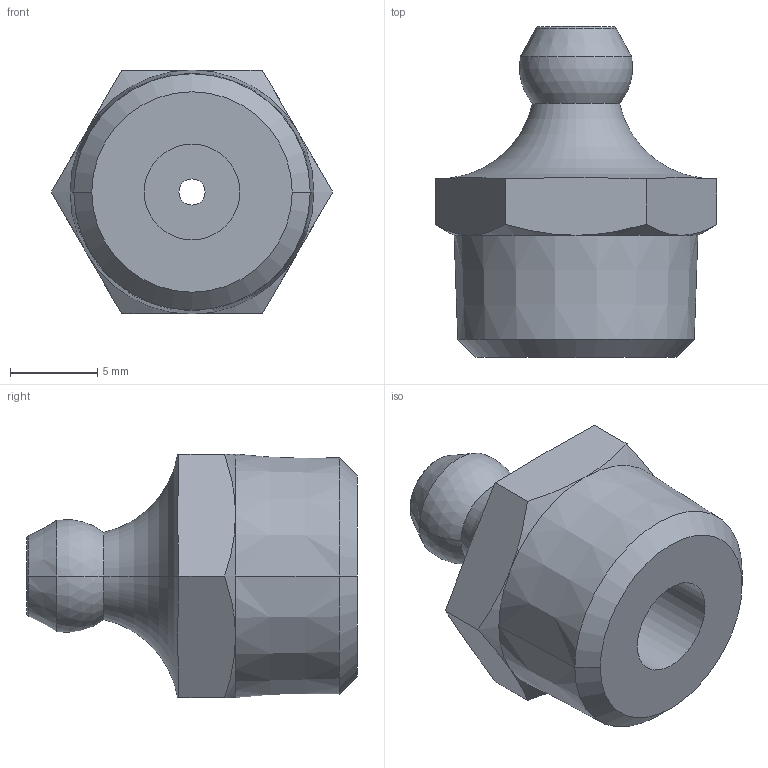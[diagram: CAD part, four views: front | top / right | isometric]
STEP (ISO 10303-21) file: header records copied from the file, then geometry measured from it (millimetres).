
FILE_DESCRIPTION((''),'2;1');
FILE_NAME('0022042','2016-09-22T',('lpini'),(''),'PRO/ENGINEER BY PARAMETRIC TECHNOLOGY CORPORATION, 2015030','PRO/ENGINEER BY PARAMETRIC TECHNOLOGY CORPORATION, 2015030','');
FILE_SCHEMA(('AUTOMOTIVE_DESIGN { 1 0 10303 214 1 1 1 1 }'));
Length unit declared in the file: millimetre
Products named in the file (1): 0022042
Bounding box: 16.17 x 19 x 14 mm (x, y, z)
Volume: 1723.8 mm3; surface area: 1060 mm2
Topology: 1 solids, 1 shells, 31 faces, 68 edges, 40 vertices
Faces by surface type: cone 12, plane 9, torus 4, cylinder 4, sphere 2
Entity records: 1042 total; most frequent: CARTESIAN_POINT 311, DIRECTION 146, ORIENTED_EDGE 136, EDGE_CURVE 68, AXIS2_PLACEMENT_3D 65, VERTEX_POINT 40, EDGE_LOOP 34, CIRCLE 34
